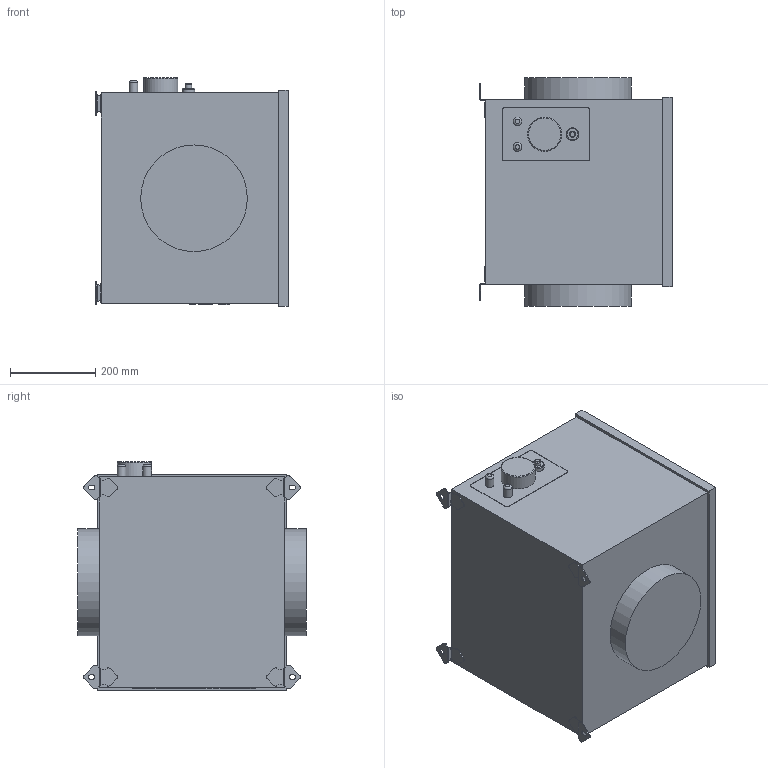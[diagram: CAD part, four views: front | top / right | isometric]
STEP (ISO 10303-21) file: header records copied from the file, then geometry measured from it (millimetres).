
FILE_DESCRIPTION(/* description */ (''),/* implementation_level */ '2;1');
FILE_NAME(/* name */ 'D:\Piotr - Dokumenty\Modele uproszczone\AFB EC\AFB_EC_250\AFB_EC_250.stp',/* time_stamp */ '2021-03-23T13:59:41+01:00',/* author */ ('Piotr.Nowotniak'),/* organization */ (''),/* preprocessor_version */ 'ST-DEVELOPER v18',/* originating_system */ 'Autodesk Inventor 2020',/* authorisation */ '');
FILE_SCHEMA (('AUTOMOTIVE_DESIGN { 1 0 10303 214 3 1 1 }'));
Length unit declared in the file: millimetre
Products named in the file (1): AFB_EC_250
Bounding box: 450.46 x 535.8 x 536.5 mm (x, y, z)
Volume: 99282828.1 mm3; surface area: 1379783 mm2
Topology: 1 solids, 1 shells, 798 faces, 2206 edges, 1464 vertices
Faces by surface type: bspline 380, plane 330, cylinder 83, torus 5
Full cylindrical faces by diameter (mm): 15 x1, 20.2 x2, 30 x1, 80 x1, 250 x2
Entity records: 31668 total; most frequent: CARTESIAN_POINT 13462, ORIENTED_EDGE 4412, DIRECTION 2445, EDGE_CURVE 2206, VERTEX_POINT 1464, LINE 1285, VECTOR 1285, EDGE_LOOP 860
